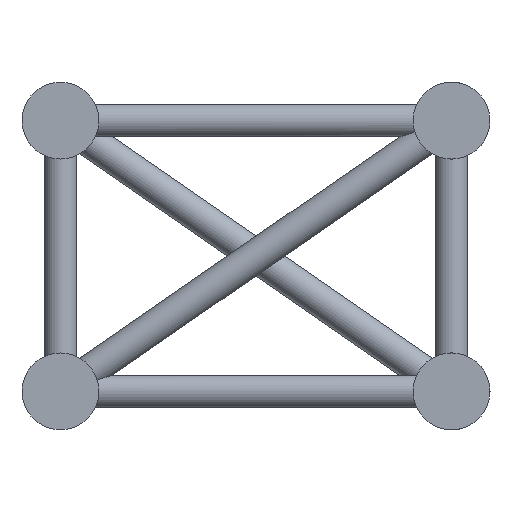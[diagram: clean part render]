
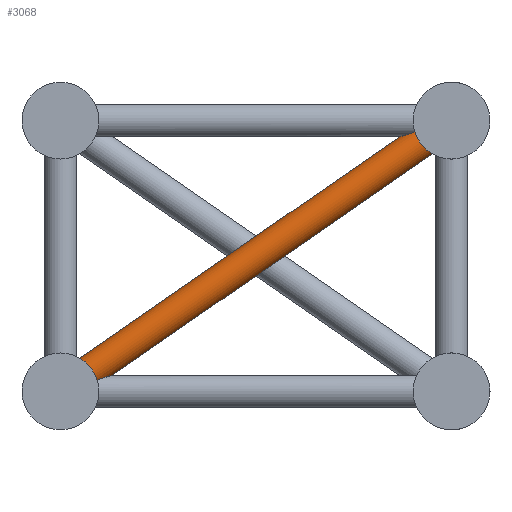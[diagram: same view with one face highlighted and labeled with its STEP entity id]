
A CAD part, left-side view. The second image highlights one B-rep face of the part: STEP entity #3068.
In plain terms, the highlighted cylindrical face has radius 12.5 mm (diameter 25 mm), a full revolution.
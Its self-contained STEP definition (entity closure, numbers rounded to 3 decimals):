
#21=ELLIPSE('',#3342,41.923,12.5);
#22=ELLIPSE('',#3344,41.923,12.5);
#460=FACE_BOUND('',#936,.T.);
#616=FACE_OUTER_BOUND('',#935,.T.);
#935=EDGE_LOOP('',(#2233,#2234));
#936=EDGE_LOOP('',(#2235,#2236));
#1251=CIRCLE('',#3343,12.5);
#1252=CIRCLE('',#3345,12.5);
#1525=VERTEX_POINT('',#7577);
#1526=VERTEX_POINT('',#7578);
#1527=VERTEX_POINT('',#7581);
#1528=VERTEX_POINT('',#7582);
#1781=EDGE_CURVE('',#1525,#1526,#21,.T.);
#1782=EDGE_CURVE('',#1526,#1525,#1251,.T.);
#1783=EDGE_CURVE('',#1527,#1528,#22,.T.);
#1784=EDGE_CURVE('',#1528,#1527,#1252,.T.);
#2233=ORIENTED_EDGE('',*,*,#1781,.F.);
#2234=ORIENTED_EDGE('',*,*,#1782,.F.);
#2235=ORIENTED_EDGE('',*,*,#1783,.F.);
#2236=ORIENTED_EDGE('',*,*,#1784,.F.);
#2730=CYLINDRICAL_SURFACE('',#3341,12.5);
#3068=ADVANCED_FACE('',(#616,#460),#2730,.T.);
#3341=AXIS2_PLACEMENT_3D('',#7576,#3884,#3885);
#3342=AXIS2_PLACEMENT_3D('',#7579,#3886,#3887);
#3343=AXIS2_PLACEMENT_3D('',#7580,#3888,#3889);
#3344=AXIS2_PLACEMENT_3D('',#7583,#3890,#3891);
#3345=AXIS2_PLACEMENT_3D('',#7584,#3892,#3893);
#3884=DIRECTION('center_axis',(0.,-0.822,
0.569));
#3885=DIRECTION('ref_axis',(1.,0.,0.));
#3886=DIRECTION('center_axis',(0.,0.298,
0.955));
#3887=DIRECTION('ref_axis',(0.,0.955,-0.298));
#3888=DIRECTION('center_axis',(0.,-0.822,
0.569));
#3889=DIRECTION('ref_axis',(1.,0.,0.));
#3890=DIRECTION('center_axis',(0.,-0.298,
-0.955));
#3891=DIRECTION('ref_axis',(0.,0.955,-0.298));
#3892=DIRECTION('center_axis',(0.,0.822,-0.569));
#3893=DIRECTION('ref_axis',(1.,0.,0.));
#7576=CARTESIAN_POINT('Origin',(92.5,278.173,-192.581));
#7577=CARTESIAN_POINT('',(102.177,25.331,-7.913));
#7578=CARTESIAN_POINT('',(82.823,25.331,-7.913));
#7579=CARTESIAN_POINT('Origin',(92.5,0.,
0.));
#7580=CARTESIAN_POINT('Origin',(92.5,20.827,-14.419));
#7581=CARTESIAN_POINT('',(102.177,273.669,-199.087));
#7582=CARTESIAN_POINT('',(82.823,273.669,-199.087));
#7583=CARTESIAN_POINT('Origin',(92.5,299.,-207.));
#7584=CARTESIAN_POINT('Origin',(92.5,278.173,-192.581));
